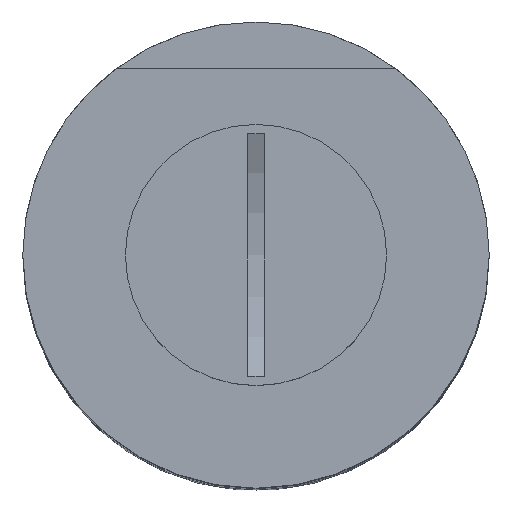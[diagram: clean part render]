
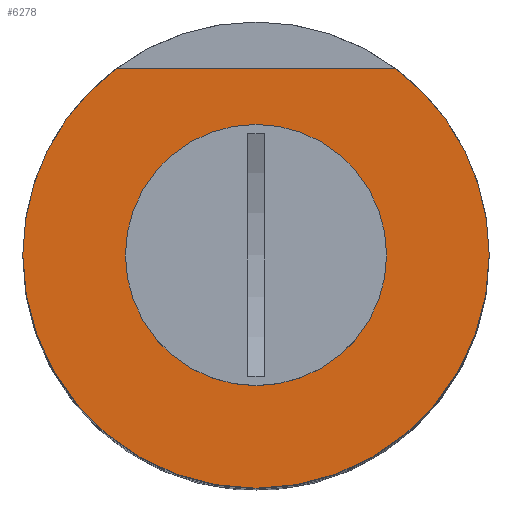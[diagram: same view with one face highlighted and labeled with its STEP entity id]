
A CAD part, top view. The second image highlights one B-rep face of the part: STEP entity #6278.
In plain terms, the highlighted planar face has unit normal (0, 0, 1).
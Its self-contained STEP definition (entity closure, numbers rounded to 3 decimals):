
#29 = VECTOR ( 'NONE', #7231, 1000. ) ;
#119 = CARTESIAN_POINT ( 'NONE',  ( 0., 0., 0. ) ) ;
#152 = DIRECTION ( 'NONE',  ( 0., 0., -1. ) ) ;
#296 = CARTESIAN_POINT ( 'NONE',  ( 15., 20., 0. ) ) ;
#524 = AXIS2_PLACEMENT_3D ( 'NONE', #7141, #5359, #6567 ) ;
#855 = ORIENTED_EDGE ( 'NONE', *, *, #1625, .F. ) ;
#1113 = CARTESIAN_POINT ( 'NONE',  ( 0., 0., 0. ) ) ;
#1260 = LINE ( 'NONE', #3643, #29 ) ;
#1458 = CIRCLE ( 'NONE', #3504, 25. ) ;
#1625 = EDGE_CURVE ( 'NONE', #2271, #6876, #1458, .T. ) ;
#1654 = DIRECTION ( 'NONE',  ( 1., 0., 0. ) ) ;
#1768 = DIRECTION ( 'NONE',  ( -1., 0., 0. ) ) ;
#1953 = CIRCLE ( 'NONE', #6368, 12.25 ) ;
#2253 = DIRECTION ( 'NONE',  ( 0., 0., 1. ) ) ;
#2271 = VERTEX_POINT ( 'NONE', #5513 ) ;
#2354 = CIRCLE ( 'NONE', #3617, 25. ) ;
#2384 = CARTESIAN_POINT ( 'NONE',  ( 0., 0., 0. ) ) ;
#2687 = ORIENTED_EDGE ( 'NONE', *, *, #4925, .F. ) ;
#2782 = EDGE_CURVE ( 'NONE', #5054, #3162, #2945, .T. ) ;
#2945 = CIRCLE ( 'NONE', #7571, 12.25 ) ;
#3138 = EDGE_CURVE ( 'NONE', #3162, #5054, #1953, .T. ) ;
#3162 = VERTEX_POINT ( 'NONE', #7205 ) ;
#3339 = DIRECTION ( 'NONE',  ( 1., 0., 0. ) ) ;
#3441 = CIRCLE ( 'NONE', #524, 25. ) ;
#3504 = AXIS2_PLACEMENT_3D ( 'NONE', #119, #152, #6656 ) ;
#3536 = CARTESIAN_POINT ( 'NONE',  ( 0., 0., 0. ) ) ;
#3617 = AXIS2_PLACEMENT_3D ( 'NONE', #3536, #7152, #1768 ) ;
#3643 = CARTESIAN_POINT ( 'NONE',  ( -20., 20., 0. ) ) ;
#3719 = EDGE_LOOP ( 'NONE', ( #6370, #5315 ) ) ;
#3891 = DIRECTION ( 'NONE',  ( 0., 0., 1. ) ) ;
#4151 = VERTEX_POINT ( 'NONE', #296 ) ;
#4446 = AXIS2_PLACEMENT_3D ( 'NONE', #1113, #2253, #1654 ) ;
#4816 = DIRECTION ( 'NONE',  ( 0., 0., 1. ) ) ;
#4925 = EDGE_CURVE ( 'NONE', #6876, #6331, #2354, .T. ) ;
#5054 = VERTEX_POINT ( 'NONE', #7389 ) ;
#5167 = CARTESIAN_POINT ( 'NONE',  ( -25., 0., 0. ) ) ;
#5315 = ORIENTED_EDGE ( 'NONE', *, *, #2782, .F. ) ;
#5359 = DIRECTION ( 'NONE',  ( 0., 0., -1. ) ) ;
#5382 = PLANE ( 'NONE',  #4446 ) ;
#5452 = EDGE_LOOP ( 'NONE', ( #5786, #2687, #855, #6081 ) ) ;
#5513 = CARTESIAN_POINT ( 'NONE',  ( 25., 0., 0. ) ) ;
#5786 = ORIENTED_EDGE ( 'NONE', *, *, #7552, .F. ) ;
#6081 = ORIENTED_EDGE ( 'NONE', *, *, #6572, .F. ) ;
#6278 = ADVANCED_FACE ( 'NONE', ( #7121, #6433 ), #5382, .T. ) ;
#6331 = VERTEX_POINT ( 'NONE', #6685 ) ;
#6368 = AXIS2_PLACEMENT_3D ( 'NONE', #2384, #4816, #7164 ) ;
#6370 = ORIENTED_EDGE ( 'NONE', *, *, #3138, .F. ) ;
#6433 = FACE_OUTER_BOUND ( 'NONE', #5452, .T. ) ;
#6567 = DIRECTION ( 'NONE',  ( -1., 0., 0. ) ) ;
#6572 = EDGE_CURVE ( 'NONE', #4151, #2271, #3441, .T. ) ;
#6656 = DIRECTION ( 'NONE',  ( -1., 0., 0. ) ) ;
#6685 = CARTESIAN_POINT ( 'NONE',  ( -15., 20., 0. ) ) ;
#6876 = VERTEX_POINT ( 'NONE', #5167 ) ;
#7121 = FACE_BOUND ( 'NONE', #3719, .T. ) ;
#7141 = CARTESIAN_POINT ( 'NONE',  ( 0., 0., 0. ) ) ;
#7152 = DIRECTION ( 'NONE',  ( 0., 0., -1. ) ) ;
#7164 = DIRECTION ( 'NONE',  ( 1., 0., 0. ) ) ;
#7205 = CARTESIAN_POINT ( 'NONE',  ( 12.25, 0., 0. ) ) ;
#7231 = DIRECTION ( 'NONE',  ( 1., 0., 0. ) ) ;
#7389 = CARTESIAN_POINT ( 'NONE',  ( -12.25, 0., 0. ) ) ;
#7444 = CARTESIAN_POINT ( 'NONE',  ( 0., 0., 0. ) ) ;
#7552 = EDGE_CURVE ( 'NONE', #6331, #4151, #1260, .T. ) ;
#7571 = AXIS2_PLACEMENT_3D ( 'NONE', #7444, #3891, #3339 ) ;
